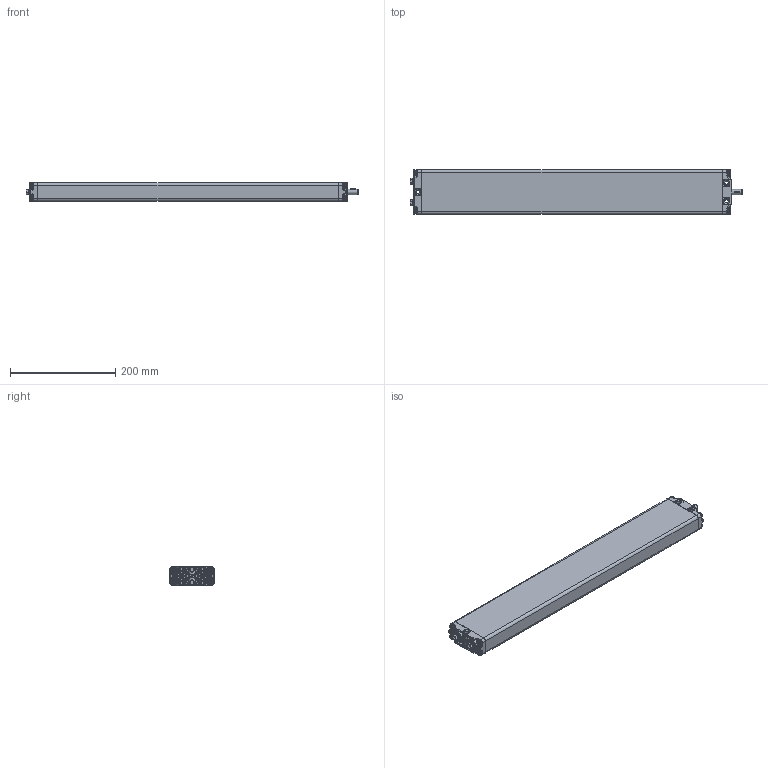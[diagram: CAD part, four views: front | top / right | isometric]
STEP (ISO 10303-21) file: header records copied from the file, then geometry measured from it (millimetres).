
FILE_DESCRIPTION(/* description */ ('Unknown'),/* implementation_level */ '2;1');
FILE_NAME(/* name */ '100.20130 Pumpe PA 2670 W',/* time_stamp */ '2016-08-09T13:51:51+02:00',/* author */ ('Unknown'),/* organization */ ('Unknown'),/* preprocessor_version */ 'ST-DEVELOPER v16.7',/* originating_system */ 'DEX',/* authorisation */ $);
FILE_SCHEMA (('AUTOMOTIVE_DESIGN {1 0 10303 214 3 1 1}'));
Products named in the file (13): 100.20130; 115.00044; 125.00046; 142.00021; 125.00021; 115.00003; 142.00013; 125.00144; 122.00040; 126.00002; 119.00024; 126.00001; 142.00057
Assembly tree (20 placements, depth 3):
  100.20130
    115.00044  x2
      125.00046
      142.00021
      125.00021
      115.00003
    142.00013  x8
    125.00144
    122.00040
    126.00002
    119.00024
    126.00001
    142.00057
Bounding box: 629.47 x 85 x 35 mm (x, y, z)
Volume: 577232.7 mm3; surface area: 334750.9 mm2
Topology: 20 solids, 20 shells, 1902 faces, 4389 edges, 2487 vertices
Faces by surface type: plane 554, bspline 477, cylinder 436, cone 285, torus 104, sphere 46
Full cylindrical faces by diameter (mm): 3.5 x2, 4.1 x2, 4.2 x2, 5 x8, 6.917 x4, 8 x5, 9.8 x8, 10 x3, 10.4 x1, 14 x1, 17.3 x2, 18 x1, 19 x1, 22.4 x2, 25.9 x4
Entity records: 64745 total; most frequent: CARTESIAN_POINT 37610, ORIENTED_EDGE 5746, DIRECTION 4625, EDGE_CURVE 2873, AXIS2_PLACEMENT_3D 1895, VERTEX_POINT 1746, FACE_BOUND 1459, EDGE_LOOP 1458
